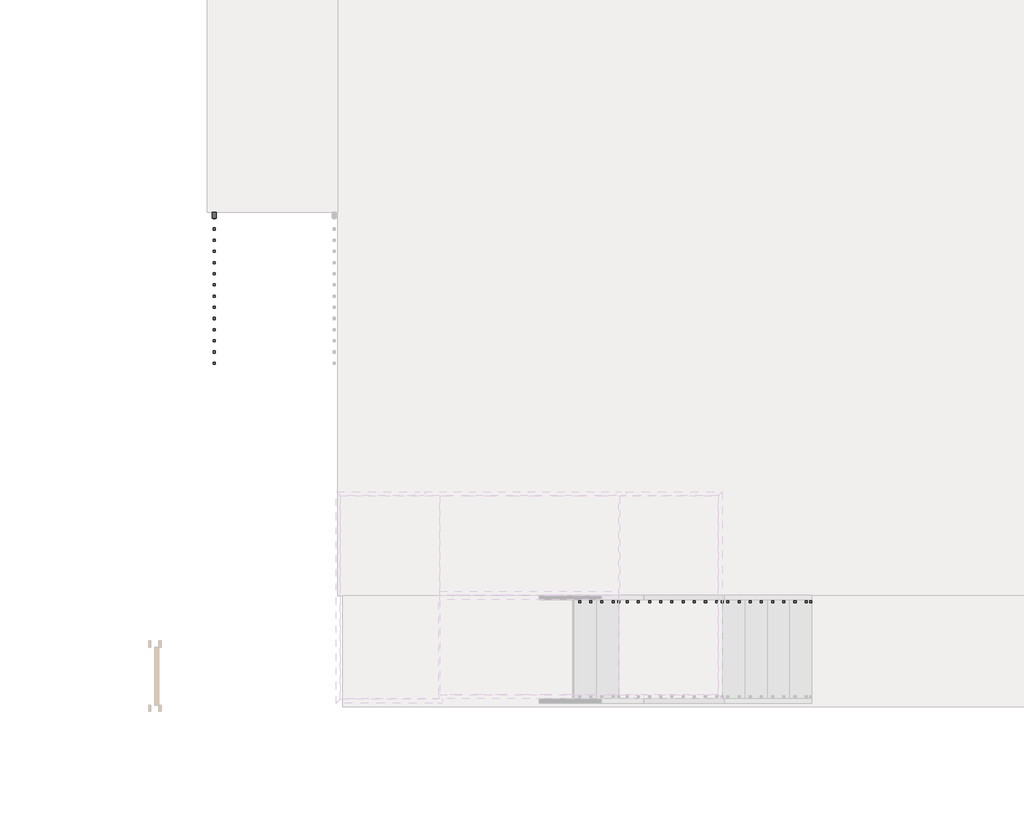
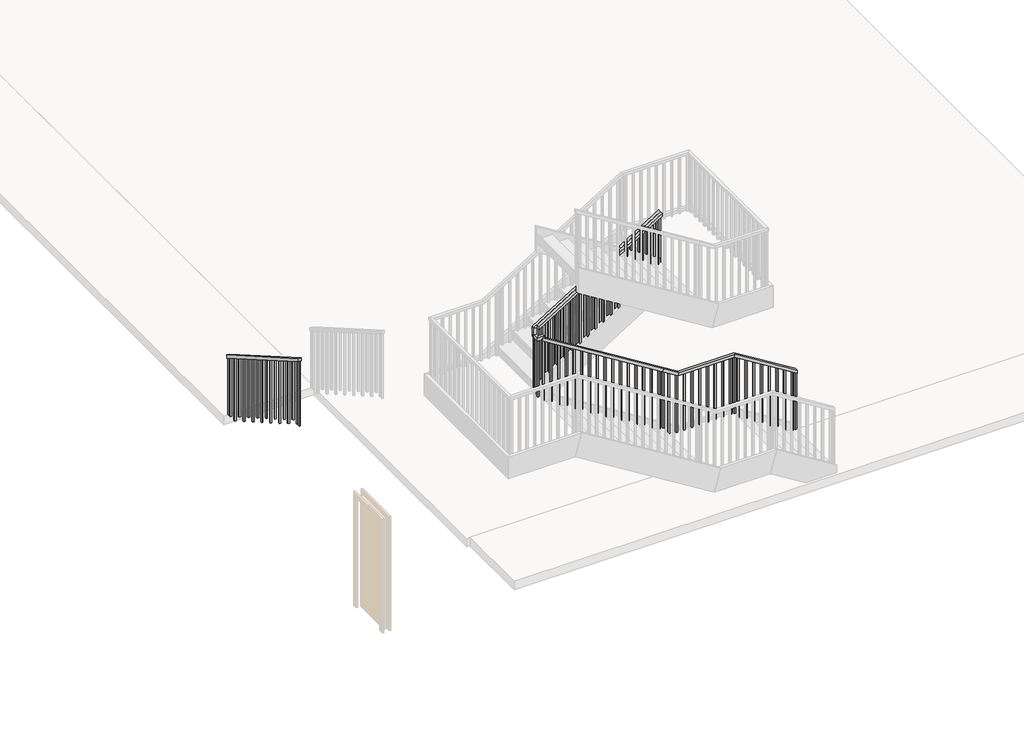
# One storey, part 3 of 5: 2 railings.
"""IFC4 building model written with IfcOpenShell, lengths in millimetres."""

from ifc_helpers import new_model, si_unit, frame, origin, place, context, project, spatial, polyline, outline, extrude, faceted_brep, element, save

model = new_model("IFC4")

# Units and contexts
model_context = context("Model", 3, world=origin())
ifc_project = project(units=[si_unit("LENGTHUNIT", "METRE", prefix="MILLI")], contexts=[model_context])

# Site, building, storey
site = spatial("IfcSite", under=ifc_project)
building = spatial("IfcBuilding", under=site)
storey = spatial("IfcBuildingStorey", under=building, Name="Hardstand", Elevation=42810.0)

# Railings
placement = place(None, origin())
element("IfcRailing", 1, ObjectType="1100mm", at=placement, inside=storey, context=model_context, shape_type="SweptSolid", body=[
    extrude(outline(polyline([(18017.4703267, 44025.5555556), (18017.4703267, 43967.8509691), (15857.4703267, 45212.2954135), (15857.4703267, 45270.0), (18017.4703267, 44025.5555556)])), frame((-80705.2913038, 0.0, 0.0), z_axis=(1.0, 0.0, 0.0), x_axis=(0.0, 1.0, 0.0)), (0.0, 0.0, 1.0), 50.0),
    extrude(outline(polyline([(15937.4703267, 45166.2048785), (15937.4703267, 44014.4444444), (15912.4703267, 44014.4444444), (15912.4703267, 45180.6081707), (15937.4703267, 45166.2048785)])), frame((-80692.7913038, 0.0, 0.0), z_axis=(1.0, 0.0, 0.0), x_axis=(0.0, 1.0, 0.0)), (0.0, 0.0, 1.0), 25.0),
    extrude(outline(polyline([(16072.4703267, 45088.4271007), (16072.4703267, 44014.4444444), (16047.4703267, 44014.4444444), (16047.4703267, 45102.8303929), (16072.4703267, 45088.4271007)])), frame((-80692.7913038, 0.0, 0.0), z_axis=(1.0, 0.0, 0.0), x_axis=(0.0, 1.0, 0.0)), (0.0, 0.0, 1.0), 25.0),
    extrude(outline(polyline([(16207.4703267, 45010.649323), (16207.4703267, 43858.8888889), (16182.4703267, 43858.8888889), (16182.4703267, 45025.0526152), (16207.4703267, 45010.649323)])), frame((-80692.7913038, 0.0, 0.0), z_axis=(1.0, 0.0, 0.0), x_axis=(0.0, 1.0, 0.0)), (0.0, 0.0, 1.0), 25.0),
    extrude(outline(polyline([(16342.4703267, 44932.8715452), (16342.4703267, 43858.8888889), (16317.4703267, 43858.8888889), (16317.4703267, 44947.2748374), (16342.4703267, 44932.8715452)])), frame((-80692.7913038, 0.0, 0.0), z_axis=(1.0, 0.0, 0.0), x_axis=(0.0, 1.0, 0.0)), (0.0, 0.0, 1.0), 25.0),
    extrude(outline(polyline([(16477.4703267, 44855.0937674), (16477.4703267, 43703.3333333), (16452.4703267, 43703.3333333), (16452.4703267, 44869.4970596), (16477.4703267, 44855.0937674)])), frame((-80692.7913038, 0.0, 0.0), z_axis=(1.0, 0.0, 0.0), x_axis=(0.0, 1.0, 0.0)), (0.0, 0.0, 1.0), 25.0),
    extrude(outline(polyline([(16612.4703267, 44777.3159896), (16612.4703267, 43703.3333333), (16587.4703267, 43703.3333333), (16587.4703267, 44791.7192818), (16612.4703267, 44777.3159896)])), frame((-80692.7913038, 0.0, 0.0), z_axis=(1.0, 0.0, 0.0), x_axis=(0.0, 1.0, 0.0)), (0.0, 0.0, 1.0), 25.0),
    extrude(outline(polyline([(16747.4703267, 44699.5382119), (16747.4703267, 43547.7777778), (16722.4703267, 43547.7777778), (16722.4703267, 44713.941504), (16747.4703267, 44699.5382119)])), frame((-80692.7913038, 0.0, 0.0), z_axis=(1.0, 0.0, 0.0), x_axis=(0.0, 1.0, 0.0)), (0.0, 0.0, 1.0), 25.0),
    extrude(outline(polyline([(16882.4703267, 44621.7604341), (16882.4703267, 43547.7777778), (16857.4703267, 43547.7777778), (16857.4703267, 44636.1637263), (16882.4703267, 44621.7604341)])), frame((-80692.7913038, 0.0, 0.0), z_axis=(1.0, 0.0, 0.0), x_axis=(0.0, 1.0, 0.0)), (0.0, 0.0, 1.0), 25.0),
    extrude(outline(polyline([(17017.4703267, 44543.9826563), (17017.4703267, 43392.2222222), (16992.4703267, 43392.2222222), (16992.4703267, 44558.3859485), (17017.4703267, 44543.9826563)])), frame((-80692.7913038, 0.0, 0.0), z_axis=(1.0, 0.0, 0.0), x_axis=(0.0, 1.0, 0.0)), (0.0, 0.0, 1.0), 25.0),
    extrude(outline(polyline([(17152.4703267, 44466.2048785), (17152.4703267, 43392.2222222), (17127.4703267, 43392.2222222), (17127.4703267, 44480.6081707), (17152.4703267, 44466.2048785)])), frame((-80692.7913038, 0.0, 0.0), z_axis=(1.0, 0.0, 0.0), x_axis=(0.0, 1.0, 0.0)), (0.0, 0.0, 1.0), 25.0),
    extrude(outline(polyline([(17287.4703267, 44388.4271007), (17287.4703267, 43236.6666667), (17262.4703267, 43236.6666667), (17262.4703267, 44402.8303929), (17287.4703267, 44388.4271007)])), frame((-80692.7913038, 0.0, 0.0), z_axis=(1.0, 0.0, 0.0), x_axis=(0.0, 1.0, 0.0)), (0.0, 0.0, 1.0), 25.0),
    extrude(outline(polyline([(17422.4703267, 44310.649323), (17422.4703267, 43236.6666667), (17397.4703267, 43236.6666667), (17397.4703267, 44325.0526152), (17422.4703267, 44310.649323)])), frame((-80692.7913038, 0.0, 0.0), z_axis=(1.0, 0.0, 0.0), x_axis=(0.0, 1.0, 0.0)), (0.0, 0.0, 1.0), 25.0),
    extrude(outline(polyline([(17557.4703267, 44232.8715452), (17557.4703267, 43081.1111111), (17532.4703267, 43081.1111111), (17532.4703267, 44247.2748374), (17557.4703267, 44232.8715452)])), frame((-80692.7913038, 0.0, 0.0), z_axis=(1.0, 0.0, 0.0), x_axis=(0.0, 1.0, 0.0)), (0.0, 0.0, 1.0), 25.0),
    extrude(outline(polyline([(17692.4703267, 44155.0937674), (17692.4703267, 43081.1111111), (17667.4703267, 43081.1111111), (17667.4703267, 44169.4970596), (17692.4703267, 44155.0937674)])), frame((-80692.7913038, 0.0, 0.0), z_axis=(1.0, 0.0, 0.0), x_axis=(0.0, 1.0, 0.0)), (0.0, 0.0, 1.0), 25.0),
    extrude(outline(polyline([(17827.4703267, 44077.3159896), (17827.4703267, 42925.5555556), (17802.4703267, 42925.5555556), (17802.4703267, 44091.7192818), (17827.4703267, 44077.3159896)])), frame((-80692.7913038, 0.0, 0.0), z_axis=(1.0, 0.0, 0.0), x_axis=(0.0, 1.0, 0.0)), (0.0, 0.0, 1.0), 25.0),
    extrude(outline(polyline([(17962.4703267, 43999.5382119), (17962.4703267, 42925.5555556), (17937.4703267, 42925.5555556), (17937.4703267, 44013.941504), (17962.4703267, 43999.5382119)])), frame((-80692.7913038, 0.0, 0.0), z_axis=(1.0, 0.0, 0.0), x_axis=(0.0, 1.0, 0.0)), (0.0, 0.0, 1.0), 25.0),
    extrude(outline(polyline([(15882.4703267, 45197.8921213), (15882.4703267, 44014.4444444), (15857.4703267, 44014.4444444), (15857.4703267, 45212.2954135), (15882.4703267, 45197.8921213)])), frame((-80692.7913038, 0.0, 0.0), z_axis=(1.0, 0.0, 0.0), x_axis=(0.0, 1.0, 0.0)), (0.0, 0.0, 1.0), 25.0),
    extrude(outline(polyline([(18017.4703267, 43967.8509691), (18017.4703267, 42925.5555556), (17992.4703267, 42925.5555556), (17992.4703267, 43982.2542612), (18017.4703267, 43967.8509691)])), frame((-80692.7913038, 0.0, 0.0), z_axis=(1.0, 0.0, 0.0), x_axis=(0.0, 1.0, 0.0)), (0.0, 0.0, 1.0), 25.0),
])
element("IfcRailing", 2, ObjectType="1100mm", at=placement, inside=storey, context=model_context, shape_type="SolidModel", body=[
    faceted_brep([(-73468.5913038, 13291.7710387, 44077.5), (-73468.5913038, 13291.7710387, 44018.6599754), (-73468.5913038, 13341.7710387, 44018.6599754), (-73468.5913038, 13341.7710387, 44077.5), (-74548.5913038, 13291.7710387, 44747.5), (-74562.8408957, 13291.7710387, 44697.5), (-74562.8408957, 13341.7710387, 44697.5), (-74548.5913038, 13341.7710387, 44747.5), (-75528.5913038, 13291.7710387, 44747.5), (-75542.8408957, 13291.7710387, 44697.5), (-75542.8408957, 13341.7710387, 44697.5), (-75528.5913038, 13341.7710387, 44747.5), (-75824.9496532, 13291.7710387, 44872.5119144), (-75798.5913038, 13291.7710387, 44915.0), (-77883.9913038, 13291.7710387, 46208.7203704), (-77933.9913038, 13291.7710387, 46180.8988643), (-75824.9496532, 13341.7710387, 44872.5119144), (-77933.9913038, 13341.7710387, 46180.8988643), (-75798.5913038, 13341.7710387, 44915.0), (-77883.9913038, 13341.7710387, 46208.7203704), (-78008.9913038, 13417.5710387, 46255.0), (-77958.9913038, 13417.5710387, 46255.0), (-77958.9913038, 13417.5710387, 46205.0), (-78008.9913038, 13417.5710387, 46205.0), (-78008.9913038, 13416.7710387, 46205.0), (-78008.9913038, 13416.7710387, 46255.0), (-77958.9913038, 13416.7710387, 46205.0), (-77958.9913038, 13416.7710387, 46255.0), (-77883.9913038, 13291.7710387, 46255.0), (-77933.9913038, 13291.7710387, 46205.0), (-77933.9913038, 13341.7710387, 46205.0), (-77883.9913038, 13341.7710387, 46255.0), (-78008.9913038, 13291.7710387, 46255.0), (-78008.9913038, 13291.7710387, 46205.0), (-77958.9913038, 13341.7710387, 46205.0), (-77958.9913038, 13341.7710387, 46255.0)], [[[0, 1, 2, 3]], [[1, 0, 4, 5]], [[2, 1, 5, 6]], [[3, 2, 6, 7]], [[0, 3, 7, 4]], [[5, 4, 8, 9]], [[6, 5, 9, 10]], [[7, 6, 10, 11]], [[4, 7, 11, 8]], [[12, 13, 14, 15]], [[16, 12, 15, 17]], [[18, 16, 17, 19]], [[13, 18, 19, 14]], [[20, 21, 22, 23]], [[24, 25, 20, 23]], [[26, 24, 23, 22]], [[27, 26, 22, 21]], [[25, 27, 21, 20]], [[9, 8, 13, 12]], [[10, 9, 12, 16]], [[11, 10, 16, 18]], [[8, 11, 18, 13]], [[15, 14, 28, 29]], [[17, 15, 29, 30]], [[19, 17, 30, 31]], [[14, 19, 31, 28]], [[29, 28, 32, 33]], [[30, 29, 33, 34]], [[31, 30, 34, 35]], [[28, 31, 35, 32]], [[33, 32, 25, 24]], [[34, 33, 24, 26]], [[35, 34, 26, 27]], [[32, 35, 27, 25]]]),
    faceted_brep([(-78008.9913038, 13442.5710387, 46391.2333333), (-77958.9913038, 13442.5710387, 46363.4118273), (-77958.9913038, 13392.5710387, 46363.4118273), (-78008.9913038, 13392.5710387, 46391.2333333), (-75798.5913038, 13442.5710387, 47762.5), (-75798.5913038, 13392.5710387, 47762.5), (-75798.5913038, 13392.5710387, 47703.6599754), (-75798.5913038, 13442.5710387, 47703.6599754)], [[[0, 1, 2, 3]], [[4, 5, 6, 7]], [[1, 0, 4, 7]], [[2, 1, 7, 6]], [[3, 2, 6, 5]], [[0, 3, 5, 4]]]),
    faceted_brep([(-75798.5913038, 13341.7710387, 47762.5), (-75798.5913038, 13341.7710387, 47703.6599754), (-75798.5913038, 13391.7710387, 47703.6599754), (-75798.5913038, 13391.7710387, 47762.5), (-77958.5913038, 13341.7710387, 46422.5), (-77958.5913038, 13391.7710387, 46422.5), (-77958.5913038, 13391.7710387, 46363.6599754), (-77958.5913038, 13341.7710387, 46363.6599754)], [[[0, 1, 2, 3]], [[4, 5, 6, 7]], [[1, 0, 4, 7]], [[2, 1, 7, 6]], [[3, 2, 6, 5]], [[0, 3, 5, 4]]]),
    faceted_brep([(-78008.9913038, 13392.5710387, 46255.0), (-78008.9913038, 13442.5710387, 46205.0), (-77958.9913038, 13442.5710387, 46205.0), (-77958.9913038, 13392.5710387, 46255.0), (-78008.9913038, 13392.5710387, 46391.2333333), (-77958.9913038, 13392.5710387, 46363.4118273), (-77958.9913038, 13442.5710387, 46363.4118273), (-78008.9913038, 13442.5710387, 46391.2333333)], [[[0, 1, 2, 3]], [[4, 5, 6, 7]], [[1, 0, 4, 7]], [[2, 1, 7, 6]], [[3, 2, 6, 5]], [[0, 3, 5, 4]]]),
    extrude(outline(polyline([(45441.0751228, -77878.5913038), (46413.2896051, -77878.5913038), (46397.7803458, -77903.5913038), (45425.5658636, -77903.5913038), (45441.0751228, -77878.5913038)])), frame((0.0, 13354.2710387, 0.0), z_axis=(0.0, 1.0, 0.0), x_axis=(0.0, 0.0, 1.0)), (0.0, 0.0, 1.0), 25.0),
    extrude(outline(polyline([(45524.8251228, -77743.5913038), (46497.0396051, -77743.5913038), (46481.5303458, -77768.5913038), (45509.3158636, -77768.5913038), (45524.8251228, -77743.5913038)])), frame((0.0, 13354.2710387, 0.0), z_axis=(0.0, 1.0, 0.0), x_axis=(0.0, 0.0, 1.0)), (0.0, 0.0, 1.0), 25.0),
    extrude(outline(polyline([(45608.5751228, -77608.5913038), (46580.7896051, -77608.5913038), (46565.2803458, -77633.5913038), (45593.0658636, -77633.5913038), (45608.5751228, -77608.5913038)])), frame((0.0, 13354.2710387, 0.0), z_axis=(0.0, 1.0, 0.0), x_axis=(0.0, 0.0, 1.0)), (0.0, 0.0, 1.0), 25.0),
    extrude(outline(polyline([(45692.3251228, -77473.5913038), (46664.5396051, -77473.5913038), (46649.0303458, -77498.5913038), (45676.8158636, -77498.5913038), (45692.3251228, -77473.5913038)])), frame((0.0, 13354.2710387, 0.0), z_axis=(0.0, 1.0, 0.0), x_axis=(0.0, 0.0, 1.0)), (0.0, 0.0, 1.0), 25.0),
    extrude(outline(polyline([(45776.0751228, -77338.5913038), (46748.2896051, -77338.5913038), (46732.7803458, -77363.5913038), (45760.5658636, -77363.5913038), (45776.0751228, -77338.5913038)])), frame((0.0, 13354.2710387, 0.0), z_axis=(0.0, 1.0, 0.0), x_axis=(0.0, 0.0, 1.0)), (0.0, 0.0, 1.0), 25.0),
    extrude(outline(polyline([(45859.8251228, -77203.5913038), (46832.0396051, -77203.5913038), (46816.5303458, -77228.5913038), (45844.3158636, -77228.5913038), (45859.8251228, -77203.5913038)])), frame((0.0, 13354.2710387, 0.0), z_axis=(0.0, 1.0, 0.0), x_axis=(0.0, 0.0, 1.0)), (0.0, 0.0, 1.0), 25.0),
    extrude(outline(polyline([(45943.5751228, -77068.5913038), (46915.7896051, -77068.5913038), (46900.2803458, -77093.5913038), (45928.0658636, -77093.5913038), (45943.5751228, -77068.5913038)])), frame((0.0, 13354.2710387, 0.0), z_axis=(0.0, 1.0, 0.0), x_axis=(0.0, 0.0, 1.0)), (0.0, 0.0, 1.0), 25.0),
    extrude(outline(polyline([(46027.3251228, -76933.5913038), (46999.5396051, -76933.5913038), (46984.0303458, -76958.5913038), (46011.8158636, -76958.5913038), (46027.3251228, -76933.5913038)])), frame((0.0, 13354.2710387, 0.0), z_axis=(0.0, 1.0, 0.0), x_axis=(0.0, 0.0, 1.0)), (0.0, 0.0, 1.0), 25.0),
    extrude(outline(polyline([(46111.0751228, -76798.5913038), (47083.2896051, -76798.5913038), (47067.7803458, -76823.5913038), (46095.5658636, -76823.5913038), (46111.0751228, -76798.5913038)])), frame((0.0, 13354.2710387, 0.0), z_axis=(0.0, 1.0, 0.0), x_axis=(0.0, 0.0, 1.0)), (0.0, 0.0, 1.0), 25.0),
    extrude(outline(polyline([(46194.8251228, -76663.5913038), (47167.0396051, -76663.5913038), (47151.5303458, -76688.5913038), (46179.3158636, -76688.5913038), (46194.8251228, -76663.5913038)])), frame((0.0, 13354.2710387, 0.0), z_axis=(0.0, 1.0, 0.0), x_axis=(0.0, 0.0, 1.0)), (0.0, 0.0, 1.0), 25.0),
    extrude(outline(polyline([(46278.5751228, -76528.5913038), (47250.7896051, -76528.5913038), (47235.2803458, -76553.5913038), (46263.0658636, -76553.5913038), (46278.5751228, -76528.5913038)])), frame((0.0, 13354.2710387, 0.0), z_axis=(0.0, 1.0, 0.0), x_axis=(0.0, 0.0, 1.0)), (0.0, 0.0, 1.0), 25.0),
    extrude(outline(polyline([(46362.3251228, -76393.5913038), (47334.5396051, -76393.5913038), (47319.0303458, -76418.5913038), (46346.8158636, -76418.5913038), (46362.3251228, -76393.5913038)])), frame((0.0, 13354.2710387, 0.0), z_axis=(0.0, 1.0, 0.0), x_axis=(0.0, 0.0, 1.0)), (0.0, 0.0, 1.0), 25.0),
    extrude(outline(polyline([(46446.0751228, -76258.5913038), (47418.2896051, -76258.5913038), (47402.7803458, -76283.5913038), (46430.5658636, -76283.5913038), (46446.0751228, -76258.5913038)])), frame((0.0, 13354.2710387, 0.0), z_axis=(0.0, 1.0, 0.0), x_axis=(0.0, 0.0, 1.0)), (0.0, 0.0, 1.0), 25.0),
    extrude(outline(polyline([(46529.8251228, -76123.5913038), (47502.0396051, -76123.5913038), (47486.5303458, -76148.5913038), (46514.3158636, -76148.5913038), (46529.8251228, -76123.5913038)])), frame((0.0, 13354.2710387, 0.0), z_axis=(0.0, 1.0, 0.0), x_axis=(0.0, 0.0, 1.0)), (0.0, 0.0, 1.0), 25.0),
    extrude(outline(polyline([(46613.5751228, -75988.5913038), (47585.7896051, -75988.5913038), (47570.2803458, -76013.5913038), (46598.0658636, -76013.5913038), (46613.5751228, -75988.5913038)])), frame((0.0, 13354.2710387, 0.0), z_axis=(0.0, 1.0, 0.0), x_axis=(0.0, 0.0, 1.0)), (0.0, 0.0, 1.0), 25.0),
    extrude(outline(polyline([(46697.3251228, -75853.5913038), (47669.5396051, -75853.5913038), (47654.0303458, -75878.5913038), (46681.8158636, -75878.5913038), (46697.3251228, -75853.5913038)])), frame((0.0, 13354.2710387, 0.0), z_axis=(0.0, 1.0, 0.0), x_axis=(0.0, 0.0, 1.0)), (0.0, 0.0, 1.0), 25.0),
    extrude(outline(polyline([(47638.2729384, -75903.9913038), (46495.0, -75903.9913038), (46495.0, -75878.9913038), (47653.7821977, -75878.9913038), (47638.2729384, -75903.9913038)])), frame((0.0, 13405.0710387, 0.0), z_axis=(0.0, 1.0, 0.0), x_axis=(0.0, 0.0, 1.0)), (0.0, 0.0, 1.0), 25.0),
    extrude(outline(polyline([(47554.5229384, -76038.9913038), (46495.0, -76038.9913038), (46495.0, -76013.9913038), (47570.0321977, -76013.9913038), (47554.5229384, -76038.9913038)])), frame((0.0, 13405.0710387, 0.0), z_axis=(0.0, 1.0, 0.0), x_axis=(0.0, 0.0, 1.0)), (0.0, 0.0, 1.0), 25.0),
    extrude(outline(polyline([(47470.7729384, -76173.9913038), (46327.5, -76173.9913038), (46327.5, -76148.9913038), (47486.2821977, -76148.9913038), (47470.7729384, -76173.9913038)])), frame((0.0, 13405.0710387, 0.0), z_axis=(0.0, 1.0, 0.0), x_axis=(0.0, 0.0, 1.0)), (0.0, 0.0, 1.0), 25.0),
    extrude(outline(polyline([(47387.0229384, -76308.9913038), (46327.5, -76308.9913038), (46327.5, -76283.9913038), (47402.5321977, -76283.9913038), (47387.0229384, -76308.9913038)])), frame((0.0, 13405.0710387, 0.0), z_axis=(0.0, 1.0, 0.0), x_axis=(0.0, 0.0, 1.0)), (0.0, 0.0, 1.0), 25.0),
    extrude(outline(polyline([(47303.2729384, -76443.9913038), (46160.0, -76443.9913038), (46160.0, -76418.9913038), (47318.7821977, -76418.9913038), (47303.2729384, -76443.9913038)])), frame((0.0, 13405.0710387, 0.0), z_axis=(0.0, 1.0, 0.0), x_axis=(0.0, 0.0, 1.0)), (0.0, 0.0, 1.0), 25.0),
    extrude(outline(polyline([(47219.5229384, -76578.9913038), (46160.0, -76578.9913038), (46160.0, -76553.9913038), (47235.0321977, -76553.9913038), (47219.5229384, -76578.9913038)])), frame((0.0, 13405.0710387, 0.0), z_axis=(0.0, 1.0, 0.0), x_axis=(0.0, 0.0, 1.0)), (0.0, 0.0, 1.0), 25.0),
    extrude(outline(polyline([(47135.7729384, -76713.9913038), (45992.5, -76713.9913038), (45992.5, -76688.9913038), (47151.2821977, -76688.9913038), (47135.7729384, -76713.9913038)])), frame((0.0, 13405.0710387, 0.0), z_axis=(0.0, 1.0, 0.0), x_axis=(0.0, 0.0, 1.0)), (0.0, 0.0, 1.0), 25.0),
    extrude(outline(polyline([(47052.0229384, -76848.9913038), (45992.5, -76848.9913038), (45992.5, -76823.9913038), (47067.5321977, -76823.9913038), (47052.0229384, -76848.9913038)])), frame((0.0, 13405.0710387, 0.0), z_axis=(0.0, 1.0, 0.0), x_axis=(0.0, 0.0, 1.0)), (0.0, 0.0, 1.0), 25.0),
    extrude(outline(polyline([(46968.2729384, -76983.9913038), (45825.0, -76983.9913038), (45825.0, -76958.9913038), (46983.7821977, -76958.9913038), (46968.2729384, -76983.9913038)])), frame((0.0, 13405.0710387, 0.0), z_axis=(0.0, 1.0, 0.0), x_axis=(0.0, 0.0, 1.0)), (0.0, 0.0, 1.0), 25.0),
    extrude(outline(polyline([(46884.5229384, -77118.9913038), (45825.0, -77118.9913038), (45825.0, -77093.9913038), (46900.0321977, -77093.9913038), (46884.5229384, -77118.9913038)])), frame((0.0, 13405.0710387, 0.0), z_axis=(0.0, 1.0, 0.0), x_axis=(0.0, 0.0, 1.0)), (0.0, 0.0, 1.0), 25.0),
    extrude(outline(polyline([(46800.7729384, -77253.9913038), (45657.5, -77253.9913038), (45657.5, -77228.9913038), (46816.2821977, -77228.9913038), (46800.7729384, -77253.9913038)])), frame((0.0, 13405.0710387, 0.0), z_axis=(0.0, 1.0, 0.0), x_axis=(0.0, 0.0, 1.0)), (0.0, 0.0, 1.0), 25.0),
    extrude(outline(polyline([(46717.0229384, -77388.9913038), (45657.5, -77388.9913038), (45657.5, -77363.9913038), (46732.5321977, -77363.9913038), (46717.0229384, -77388.9913038)])), frame((0.0, 13405.0710387, 0.0), z_axis=(0.0, 1.0, 0.0), x_axis=(0.0, 0.0, 1.0)), (0.0, 0.0, 1.0), 25.0),
    extrude(outline(polyline([(46633.2729384, -77523.9913038), (45490.0, -77523.9913038), (45490.0, -77498.9913038), (46648.7821977, -77498.9913038), (46633.2729384, -77523.9913038)])), frame((0.0, 13405.0710387, 0.0), z_axis=(0.0, 1.0, 0.0), x_axis=(0.0, 0.0, 1.0)), (0.0, 0.0, 1.0), 25.0),
    extrude(outline(polyline([(46549.5229384, -77658.9913038), (45490.0, -77658.9913038), (45490.0, -77633.9913038), (46565.0321977, -77633.9913038), (46549.5229384, -77658.9913038)])), frame((0.0, 13405.0710387, 0.0), z_axis=(0.0, 1.0, 0.0), x_axis=(0.0, 0.0, 1.0)), (0.0, 0.0, 1.0), 25.0),
    extrude(outline(polyline([(46465.7729384, -77793.9913038), (45322.5, -77793.9913038), (45322.5, -77768.9913038), (46481.2821977, -77768.9913038), (46465.7729384, -77793.9913038)])), frame((0.0, 13405.0710387, 0.0), z_axis=(0.0, 1.0, 0.0), x_axis=(0.0, 0.0, 1.0)), (0.0, 0.0, 1.0), 25.0),
    extrude(outline(polyline([(46382.0229384, -77928.9913038), (45322.5, -77928.9913038), (45322.5, -77903.9913038), (46397.5321977, -77903.9913038), (46382.0229384, -77928.9913038)])), frame((0.0, 13405.0710387, 0.0), z_axis=(0.0, 1.0, 0.0), x_axis=(0.0, 0.0, 1.0)), (0.0, 0.0, 1.0), 25.0),
    extrude(outline(polyline([(-77971.4913038, 13371.7710387), (-77996.4913038, 13371.7710387), (-77996.4913038, 13396.7710387), (-77971.4913038, 13396.7710387), (-77971.4913038, 13371.7710387)])), frame((0.0, 0.0, 45155.0), z_axis=(0.0, 0.0, 1.0), x_axis=(1.0, 0.0, 0.0)), (0.0, 0.0, 1.0), 1050.0),
    extrude(outline(polyline([(-77878.5913038, 13329.2710387), (-77878.5913038, 13304.2710387), (-77903.5913038, 13304.2710387), (-77903.5913038, 13329.2710387), (-77878.5913038, 13329.2710387)])), frame((0.0, 0.0, 44987.5), z_axis=(0.0, 0.0, 1.0), x_axis=(1.0, 0.0, 0.0)), (0.0, 0.0, 1.0), 1217.5),
    extrude(outline(polyline([(44987.5, -77743.5913038), (46062.7803458, -77743.5913038), (46078.2896051, -77768.5913038), (44987.5, -77768.5913038), (44987.5, -77743.5913038)])), frame((0.0, 13304.2710387, 0.0), z_axis=(0.0, 1.0, 0.0), x_axis=(0.0, 0.0, 1.0)), (0.0, 0.0, 1.0), 25.0),
    extrude(outline(polyline([(44820.0, -77608.5913038), (45979.0303458, -77608.5913038), (45994.5396051, -77633.5913038), (44820.0, -77633.5913038), (44820.0, -77608.5913038)])), frame((0.0, 13304.2710387, 0.0), z_axis=(0.0, 1.0, 0.0), x_axis=(0.0, 0.0, 1.0)), (0.0, 0.0, 1.0), 25.0),
    extrude(outline(polyline([(44820.0, -77473.5913038), (45895.2803458, -77473.5913038), (45910.7896051, -77498.5913038), (44820.0, -77498.5913038), (44820.0, -77473.5913038)])), frame((0.0, 13304.2710387, 0.0), z_axis=(0.0, 1.0, 0.0), x_axis=(0.0, 0.0, 1.0)), (0.0, 0.0, 1.0), 25.0),
    extrude(outline(polyline([(44652.5, -77338.5913038), (45811.5303458, -77338.5913038), (45827.0396051, -77363.5913038), (44652.5, -77363.5913038), (44652.5, -77338.5913038)])), frame((0.0, 13304.2710387, 0.0), z_axis=(0.0, 1.0, 0.0), x_axis=(0.0, 0.0, 1.0)), (0.0, 0.0, 1.0), 25.0),
    extrude(outline(polyline([(44652.5, -77203.5913038), (45727.7803458, -77203.5913038), (45743.2896051, -77228.5913038), (44652.5, -77228.5913038), (44652.5, -77203.5913038)])), frame((0.0, 13304.2710387, 0.0), z_axis=(0.0, 1.0, 0.0), x_axis=(0.0, 0.0, 1.0)), (0.0, 0.0, 1.0), 25.0),
    extrude(outline(polyline([(44485.0, -77068.5913038), (45644.0303458, -77068.5913038), (45659.5396051, -77093.5913038), (44485.0, -77093.5913038), (44485.0, -77068.5913038)])), frame((0.0, 13304.2710387, 0.0), z_axis=(0.0, 1.0, 0.0), x_axis=(0.0, 0.0, 1.0)), (0.0, 0.0, 1.0), 25.0),
    extrude(outline(polyline([(44485.0, -76933.5913038), (45560.2803458, -76933.5913038), (45575.7896051, -76958.5913038), (44485.0, -76958.5913038), (44485.0, -76933.5913038)])), frame((0.0, 13304.2710387, 0.0), z_axis=(0.0, 1.0, 0.0), x_axis=(0.0, 0.0, 1.0)), (0.0, 0.0, 1.0), 25.0),
    extrude(outline(polyline([(44317.5, -76798.5913038), (45476.5303458, -76798.5913038), (45492.0396051, -76823.5913038), (44317.5, -76823.5913038), (44317.5, -76798.5913038)])), frame((0.0, 13304.2710387, 0.0), z_axis=(0.0, 1.0, 0.0), x_axis=(0.0, 0.0, 1.0)), (0.0, 0.0, 1.0), 25.0),
    extrude(outline(polyline([(44317.5, -76663.5913038), (45392.7803458, -76663.5913038), (45408.2896051, -76688.5913038), (44317.5, -76688.5913038), (44317.5, -76663.5913038)])), frame((0.0, 13304.2710387, 0.0), z_axis=(0.0, 1.0, 0.0), x_axis=(0.0, 0.0, 1.0)), (0.0, 0.0, 1.0), 25.0),
    extrude(outline(polyline([(44150.0, -76528.5913038), (45309.0303458, -76528.5913038), (45324.5396051, -76553.5913038), (44150.0, -76553.5913038), (44150.0, -76528.5913038)])), frame((0.0, 13304.2710387, 0.0), z_axis=(0.0, 1.0, 0.0), x_axis=(0.0, 0.0, 1.0)), (0.0, 0.0, 1.0), 25.0),
    extrude(outline(polyline([(44150.0, -76393.5913038), (45225.2803458, -76393.5913038), (45240.7896051, -76418.5913038), (44150.0, -76418.5913038), (44150.0, -76393.5913038)])), frame((0.0, 13304.2710387, 0.0), z_axis=(0.0, 1.0, 0.0), x_axis=(0.0, 0.0, 1.0)), (0.0, 0.0, 1.0), 25.0),
    extrude(outline(polyline([(43982.5, -76258.5913038), (45141.5303458, -76258.5913038), (45157.0396051, -76283.5913038), (43982.5, -76283.5913038), (43982.5, -76258.5913038)])), frame((0.0, 13304.2710387, 0.0), z_axis=(0.0, 1.0, 0.0), x_axis=(0.0, 0.0, 1.0)), (0.0, 0.0, 1.0), 25.0),
    extrude(outline(polyline([(43982.5, -76123.5913038), (45057.7803458, -76123.5913038), (45073.2896051, -76148.5913038), (43982.5, -76148.5913038), (43982.5, -76123.5913038)])), frame((0.0, 13304.2710387, 0.0), z_axis=(0.0, 1.0, 0.0), x_axis=(0.0, 0.0, 1.0)), (0.0, 0.0, 1.0), 25.0),
    extrude(outline(polyline([(43815.0, -75988.5913038), (44974.0303458, -75988.5913038), (44989.5396051, -76013.5913038), (43815.0, -76013.5913038), (43815.0, -75988.5913038)])), frame((0.0, 13304.2710387, 0.0), z_axis=(0.0, 1.0, 0.0), x_axis=(0.0, 0.0, 1.0)), (0.0, 0.0, 1.0), 25.0),
    extrude(outline(polyline([(43815.0, -75853.5913038), (44890.2803458, -75853.5913038), (44905.7896051, -75878.5913038), (43815.0, -75878.5913038), (43815.0, -75853.5913038)])), frame((0.0, 13304.2710387, 0.0), z_axis=(0.0, 1.0, 0.0), x_axis=(0.0, 0.0, 1.0)), (0.0, 0.0, 1.0), 25.0),
    extrude(outline(polyline([(43647.5, -75683.5913038), (44784.8173828, -75683.5913038), (44800.3266421, -75708.5913038), (43647.5, -75708.5913038), (43647.5, -75683.5913038)])), frame((0.0, 13304.2710387, 0.0), z_axis=(0.0, 1.0, 0.0), x_axis=(0.0, 0.0, 1.0)), (0.0, 0.0, 1.0), 25.0),
    extrude(outline(polyline([(43647.5, -75548.5913038), (44701.0673828, -75548.5913038), (44716.5766421, -75573.5913038), (43647.5, -75573.5913038), (43647.5, -75548.5913038)])), frame((0.0, 13304.2710387, 0.0), z_axis=(0.0, 1.0, 0.0), x_axis=(0.0, 0.0, 1.0)), (0.0, 0.0, 1.0), 25.0),
    extrude(outline(polyline([(-75413.5913038, 13329.2710387), (-75413.5913038, 13304.2710387), (-75438.5913038, 13304.2710387), (-75438.5913038, 13329.2710387), (-75413.5913038, 13329.2710387)])), frame((0.0, 0.0, 43647.5), z_axis=(0.0, 0.0, 1.0), x_axis=(1.0, 0.0, 0.0)), (0.0, 0.0, 1.0), 1050.0),
    extrude(outline(polyline([(-75278.5913038, 13329.2710387), (-75278.5913038, 13304.2710387), (-75303.5913038, 13304.2710387), (-75303.5913038, 13329.2710387), (-75278.5913038, 13329.2710387)])), frame((0.0, 0.0, 43647.5), z_axis=(0.0, 0.0, 1.0), x_axis=(1.0, 0.0, 0.0)), (0.0, 0.0, 1.0), 1050.0),
    extrude(outline(polyline([(-75143.5913038, 13329.2710387), (-75143.5913038, 13304.2710387), (-75168.5913038, 13304.2710387), (-75168.5913038, 13329.2710387), (-75143.5913038, 13329.2710387)])), frame((0.0, 0.0, 43647.5), z_axis=(0.0, 0.0, 1.0), x_axis=(1.0, 0.0, 0.0)), (0.0, 0.0, 1.0), 1050.0),
    extrude(outline(polyline([(-75008.5913038, 13329.2710387), (-75008.5913038, 13304.2710387), (-75033.5913038, 13304.2710387), (-75033.5913038, 13329.2710387), (-75008.5913038, 13329.2710387)])), frame((0.0, 0.0, 43647.5), z_axis=(0.0, 0.0, 1.0), x_axis=(1.0, 0.0, 0.0)), (0.0, 0.0, 1.0), 1050.0),
    extrude(outline(polyline([(-74873.5913038, 13329.2710387), (-74873.5913038, 13304.2710387), (-74898.5913038, 13304.2710387), (-74898.5913038, 13329.2710387), (-74873.5913038, 13329.2710387)])), frame((0.0, 0.0, 43647.5), z_axis=(0.0, 0.0, 1.0), x_axis=(1.0, 0.0, 0.0)), (0.0, 0.0, 1.0), 1050.0),
    extrude(outline(polyline([(-74738.5913038, 13329.2710387), (-74738.5913038, 13304.2710387), (-74763.5913038, 13304.2710387), (-74763.5913038, 13329.2710387), (-74738.5913038, 13329.2710387)])), frame((0.0, 0.0, 43647.5), z_axis=(0.0, 0.0, 1.0), x_axis=(1.0, 0.0, 0.0)), (0.0, 0.0, 1.0), 1050.0),
    extrude(outline(polyline([(-74603.5913038, 13329.2710387), (-74603.5913038, 13304.2710387), (-74628.5913038, 13304.2710387), (-74628.5913038, 13329.2710387), (-74603.5913038, 13329.2710387)])), frame((0.0, 0.0, 43647.5), z_axis=(0.0, 0.0, 1.0), x_axis=(1.0, 0.0, 0.0)), (0.0, 0.0, 1.0), 1050.0),
    extrude(outline(polyline([(43480.0, -74468.5913038), (44639.0303458, -74468.5913038), (44654.5396051, -74493.5913038), (43480.0, -74493.5913038), (43480.0, -74468.5913038)])), frame((0.0, 13304.2710387, 0.0), z_axis=(0.0, 1.0, 0.0), x_axis=(0.0, 0.0, 1.0)), (0.0, 0.0, 1.0), 25.0),
    extrude(outline(polyline([(43480.0, -74333.5913038), (44555.2803458, -74333.5913038), (44570.7896051, -74358.5913038), (43480.0, -74358.5913038), (43480.0, -74333.5913038)])), frame((0.0, 13304.2710387, 0.0), z_axis=(0.0, 1.0, 0.0), x_axis=(0.0, 0.0, 1.0)), (0.0, 0.0, 1.0), 25.0),
    extrude(outline(polyline([(43312.5, -74198.5913038), (44471.5303458, -74198.5913038), (44487.0396051, -74223.5913038), (43312.5, -74223.5913038), (43312.5, -74198.5913038)])), frame((0.0, 13304.2710387, 0.0), z_axis=(0.0, 1.0, 0.0), x_axis=(0.0, 0.0, 1.0)), (0.0, 0.0, 1.0), 25.0),
    extrude(outline(polyline([(43312.5, -74063.5913038), (44387.7803458, -74063.5913038), (44403.2896051, -74088.5913038), (43312.5, -74088.5913038), (43312.5, -74063.5913038)])), frame((0.0, 13304.2710387, 0.0), z_axis=(0.0, 1.0, 0.0), x_axis=(0.0, 0.0, 1.0)), (0.0, 0.0, 1.0), 25.0),
    extrude(outline(polyline([(43145.0, -73928.5913038), (44304.0303458, -73928.5913038), (44319.5396051, -73953.5913038), (43145.0, -73953.5913038), (43145.0, -73928.5913038)])), frame((0.0, 13304.2710387, 0.0), z_axis=(0.0, 1.0, 0.0), x_axis=(0.0, 0.0, 1.0)), (0.0, 0.0, 1.0), 25.0),
    extrude(outline(polyline([(43145.0, -73793.5913038), (44220.2803458, -73793.5913038), (44235.7896051, -73818.5913038), (43145.0, -73818.5913038), (43145.0, -73793.5913038)])), frame((0.0, 13304.2710387, 0.0), z_axis=(0.0, 1.0, 0.0), x_axis=(0.0, 0.0, 1.0)), (0.0, 0.0, 1.0), 25.0),
    extrude(outline(polyline([(42977.5, -73658.5913038), (44136.5303458, -73658.5913038), (44152.0396051, -73683.5913038), (42977.5, -73683.5913038), (42977.5, -73658.5913038)])), frame((0.0, 13304.2710387, 0.0), z_axis=(0.0, 1.0, 0.0), x_axis=(0.0, 0.0, 1.0)), (0.0, 0.0, 1.0), 25.0),
    extrude(outline(polyline([(42977.5, -73523.5913038), (44052.7803458, -73523.5913038), (44068.2896051, -73548.5913038), (42977.5, -73548.5913038), (42977.5, -73523.5913038)])), frame((0.0, 13304.2710387, 0.0), z_axis=(0.0, 1.0, 0.0), x_axis=(0.0, 0.0, 1.0)), (0.0, 0.0, 1.0), 25.0),
    extrude(outline(polyline([(47695.9053458, -75811.0913038), (46662.5, -75811.0913038), (46662.5, -75786.0913038), (47711.4146051, -75786.0913038), (47695.9053458, -75811.0913038)])), frame((0.0, 13405.0710387, 0.0), z_axis=(0.0, 1.0, 0.0), x_axis=(0.0, 0.0, 1.0)), (0.0, 0.0, 1.0), 25.0),
    extrude(outline(polyline([(-77971.4913038, 13405.0710387), (-77996.4913038, 13405.0710387), (-77996.4913038, 13430.0710387), (-77971.4913038, 13430.0710387), (-77971.4913038, 13405.0710387)])), frame((0.0, 0.0, 45155.0), z_axis=(0.0, 0.0, 1.0), x_axis=(1.0, 0.0, 0.0)), (0.0, 0.0, 1.0), 1050.0),
    extrude(outline(polyline([(-77971.4913038, 13329.2710387), (-77971.4913038, 13304.2710387), (-77996.4913038, 13304.2710387), (-77996.4913038, 13329.2710387), (-77971.4913038, 13329.2710387)])), frame((0.0, 0.0, 45155.0), z_axis=(0.0, 0.0, 1.0), x_axis=(1.0, 0.0, 0.0)), (0.0, 0.0, 1.0), 1050.0),
    extrude(outline(polyline([(43647.5, -75786.0913038), (44848.4053458, -75786.0913038), (44863.9146051, -75811.0913038), (43647.5, -75811.0913038), (43647.5, -75786.0913038)])), frame((0.0, 13304.2710387, 0.0), z_axis=(0.0, 1.0, 0.0), x_axis=(0.0, 0.0, 1.0)), (0.0, 0.0, 1.0), 25.0),
    extrude(outline(polyline([(43647.5, -74536.0913038), (44680.9053458, -74536.0913038), (44696.4146051, -74561.0913038), (43647.5, -74561.0913038), (43647.5, -74536.0913038)])), frame((0.0, 13304.2710387, 0.0), z_axis=(0.0, 1.0, 0.0), x_axis=(0.0, 0.0, 1.0)), (0.0, 0.0, 1.0), 25.0),
    extrude(outline(polyline([(45406.9547525, -77933.5913038), (46379.1692347, -77933.5913038), (46363.6599754, -77958.5913038), (45391.4454932, -77958.5913038), (45406.9547525, -77933.5913038)])), frame((0.0, 13354.2710387, 0.0), z_axis=(0.0, 1.0, 0.0), x_axis=(0.0, 0.0, 1.0)), (0.0, 0.0, 1.0), 25.0),
    extrude(outline(polyline([(42977.5, -73468.5913038), (44018.6599754, -73468.5913038), (44034.1692347, -73493.5913038), (42977.5, -73493.5913038), (42977.5, -73468.5913038)])), frame((0.0, 13304.2710387, 0.0), z_axis=(0.0, 1.0, 0.0), x_axis=(0.0, 0.0, 1.0)), (0.0, 0.0, 1.0), 25.0),
])

save(model, "model.ifc")
